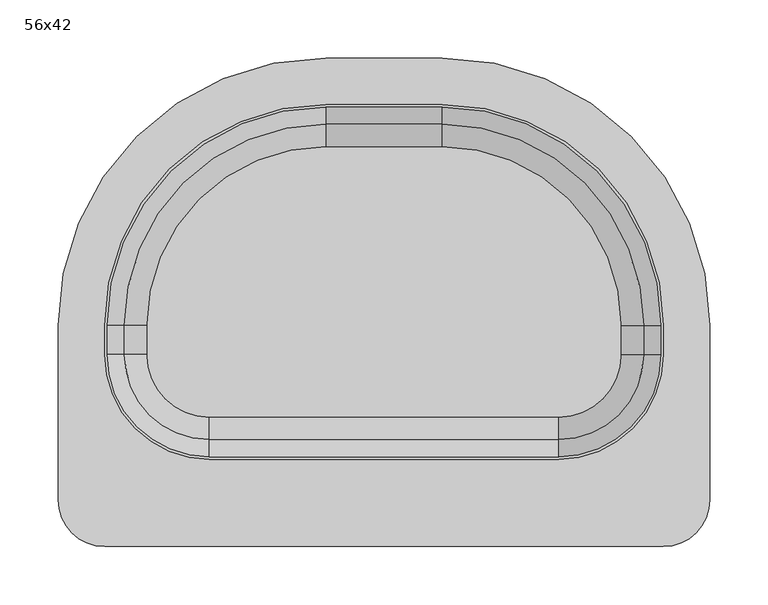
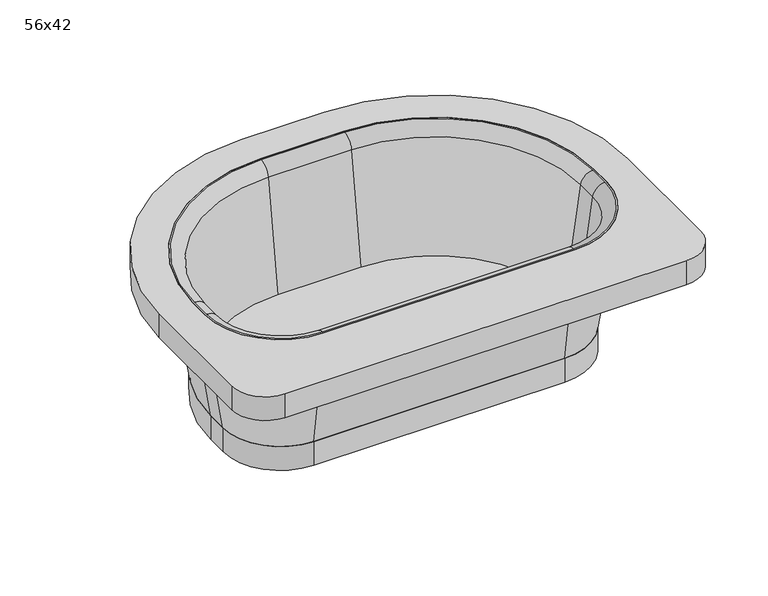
"""IFC4 building model written with IfcOpenShell, lengths in millimetres: flow terminal geometry, Sanitær Servant Løs : 56x42."""

from ifc_helpers import new_model, si_unit, point, frame, frame_2d, origin, place, context, project, spatial, polyline, circle_curve, ellipse_curve, trimmed, segment, composite_curve, outline, extrude, source, transform, mapped, element, save
from ifc_brep_helpers import plane_surface, cylinder_surface, revolved_surface, advanced_brep


def flow_terminal_56x42_dcce3b80(model_context):
    return source(origin(), model_context, "Body", "SolidModel", [
        extrude(outline(composite_curve([segment(trimmed(circle_curve(frame_2d((165.2894113, 370.0)), 168.9188748), [point((165.2894113, 538.9188748))], [point((334.208286, 370.0))], False, "CARTESIAN"), True, "CONTINUOUS"), segment(polyline([(334.208286, 370.0), (334.208286, 345.0)]), True, "CONTINUOUS"), segment(trimmed(circle_curve(frame_2d((265.2894113, 345.0)), 68.9188748), [point((334.208286, 345.0))], [point((265.2894113, 276.0811252))], False, "CARTESIAN"), True, "CONTINUOUS"), segment(polyline([(265.2894113, 276.0811252), (-34.7105887, 276.0811252)]), True, "CONTINUOUS"), segment(trimmed(circle_curve(frame_2d((-34.7105887, 345.0)), 68.9188748), [point((-34.7105887, 276.0811252))], [point((-103.6294635, 345.0))], False, "CARTESIAN"), True, "CONTINUOUS"), segment(polyline([(-103.6294635, 345.0), (-103.6294635, 370.0)]), True, "CONTINUOUS"), segment(trimmed(circle_curve(frame_2d((65.2894113, 370.0)), 168.9188748), [point((-103.6294635, 370.0))], [point((65.2894113, 538.9188748))], False, "CARTESIAN"), True, "CONTINUOUS"), segment(polyline([(65.2894113, 538.9188748), (165.2894113, 538.9188748)]), True, "CONTINUOUS")], self_intersect=False)), frame((0.0, 0.0, 720.0), z_axis=(0.0, 0.0, 1.0), x_axis=(1.0, 0.0, 0.0)), (0.0, 0.0, 1.0), 30.0),
        extrude(outline(composite_curve([segment(trimmed(circle_curve(frame_2d((65.2894113, 370.0)), 230.0), [point((-164.7105887, 370.0))], [point((65.2894113, 600.0))], False, "CARTESIAN"), True, "CONTINUOUS"), segment(polyline([(65.2894113, 600.0), (165.2894113, 600.0)]), True, "CONTINUOUS"), segment(trimmed(circle_curve(frame_2d((165.2894113, 370.0)), 230.0), [point((165.2894113, 600.0))], [point((395.2894113, 370.0))], False, "CARTESIAN"), True, "CONTINUOUS"), segment(polyline([(395.2894113, 370.0), (395.2894113, 220.0)]), True, "CONTINUOUS"), segment(trimmed(circle_curve(frame_2d((355.2894113, 220.0)), 40.0), [point((395.2894113, 220.0))], [point((355.2894113, 180.0))], False, "CARTESIAN"), True, "CONTINUOUS"), segment(polyline([(355.2894113, 180.0), (-124.7105887, 180.0)]), True, "CONTINUOUS"), segment(trimmed(circle_curve(frame_2d((-124.7105887, 220.0)), 40.0), [point((-124.7105887, 180.0))], [point((-164.7105887, 220.0))], False, "CARTESIAN"), True, "CONTINUOUS"), segment(polyline([(-164.7105887, 220.0), (-164.7105887, 370.0)]), True, "CONTINUOUS")], self_intersect=False), holes=[composite_curve([segment(trimmed(circle_curve(frame_2d((65.2894113, 370.0)), 190.0), [point((65.2894113, 560.0))], [point((-124.7105887, 370.0))], True, "CARTESIAN"), True, "CONTINUOUS"), segment(polyline([(-124.7105887, 370.0), (-124.7105887, 345.0)]), True, "CONTINUOUS"), segment(trimmed(circle_curve(frame_2d((-34.7105887, 345.0)), 90.0), [point((-124.7105887, 345.0))], [point((-34.7105887, 255.0))], True, "CARTESIAN"), True, "CONTINUOUS"), segment(polyline([(-34.7105887, 255.0), (265.2894113, 255.0)]), True, "CONTINUOUS"), segment(trimmed(circle_curve(frame_2d((265.2894113, 345.0)), 90.0), [point((265.2894113, 255.0))], [point((355.2894113, 345.0))], True, "CARTESIAN"), True, "CONTINUOUS"), segment(polyline([(355.2894113, 345.0), (355.2894113, 370.0)]), True, "CONTINUOUS"), segment(trimmed(circle_curve(frame_2d((165.2894113, 370.0)), 190.0), [point((355.2894113, 370.0))], [point((165.2894113, 560.0))], True, "CARTESIAN"), True, "CONTINUOUS"), segment(polyline([(165.2894113, 560.0), (65.2894113, 560.0)]), True, "CONTINUOUS")], self_intersect=False)]), frame((0.0, 0.0, 870.0), z_axis=(0.0, 0.0, 1.0), x_axis=(1.0, 0.0, 0.0)), (0.0, 0.0, 1.0), 30.0),
        advanced_brep(
        [(338.3272777, 370.0, 887.0875965), (165.2894113, 543.0378664, 887.0875965), (165.2894113, 523.7714612, 750.0), (319.0608725, 370.0, 750.0), (353.1812987, 370.0, 900.0), (165.2894113, 557.8918875, 900.0), (355.2894113, 370.0, 885.0), (165.2894113, 560.0, 885.0), (165.2894113, 560.0, 900.0), (355.2894113, 370.0, 900.0), (334.208286, 370.0, 750.0), (165.2894113, 538.9188748, 750.0), (319.0608725, 345.0, 750.0), (338.3272777, 345.0, 887.0875965), (353.1812987, 345.0, 900.0), (355.2894113, 345.0, 900.0), (355.2894113, 345.0, 885.0), (334.208286, 345.0, 750.0), (265.2894113, 271.9621336, 887.0875965), (265.2894113, 291.2285388, 750.0), (265.2894113, 257.1081125, 900.0), (265.2894113, 255.0, 885.0), (265.2894113, 255.0, 900.0), (265.2894113, 276.0811252, 750.0), (-34.7105887, 291.2285388, 750.0), (-34.7105887, 271.9621336, 887.0875965), (-34.7105887, 257.1081125, 900.0), (-34.7105887, 255.0, 900.0), (-34.7105887, 255.0, 885.0), (-34.7105887, 276.0811252, 750.0), (-107.7484552, 345.0, 887.0875965), (-88.48205, 345.0, 750.0), (-122.6024762, 345.0, 900.0), (-124.7105887, 345.0, 885.0), (-124.7105887, 345.0, 900.0), (-103.6294635, 345.0, 750.0), (-88.48205, 370.0, 750.0), (-107.7484552, 370.0, 887.0875965), (-122.6024762, 370.0, 900.0), (-124.7105887, 370.0, 900.0), (-124.7105887, 370.0, 885.0), (-103.6294635, 370.0, 750.0), (65.2894113, 543.0378664, 887.0875965), (65.2894113, 523.7714612, 750.0), (65.2894113, 557.8918875, 900.0), (65.2894113, 560.0, 885.0), (65.2894113, 560.0, 900.0), (65.2894113, 538.9188748, 750.0)],
        [
            (0, 1, circle_curve(frame((165.2894113, 370.0, 887.0875965), z_axis=(0.0, 0.0, 1.0), x_axis=(0.0, 1.0, 0.0)), 173.0378664)),
            (1, 2),
            (2, 3, circle_curve(frame((165.2894113, 370.0, 750.0), z_axis=(0.0, 0.0, -1.0), x_axis=(0.0, 1.0, 0.0)), 153.7714612)),
            (3, 0),
            (4, 5, circle_curve(frame((165.2894113, 370.0, 900.0), z_axis=(0.0, 0.0, 1.0), x_axis=(0.0, 1.0, 0.0)), 187.8918875)),
            (5, 1, circle_curve(frame((165.2894113, 557.8918875, 885.0), z_axis=(1.0, 0.0, 0.0), x_axis=(0.0, -1.0, 0.0)), 15.0)),
            (0, 4, circle_curve(frame((353.1812987, 370.0, 885.0), z_axis=(0.0, 1.0, 0.0), x_axis=(-1.0, 0.0, 0.0)), 15.0)),
            (6, 7, circle_curve(frame((165.2894113, 370.0, 885.0), z_axis=(0.0, 0.0, 1.0), x_axis=(0.0, 1.0, 0.0)), 190.0)),
            (7, 8),
            (8, 9, circle_curve(frame((165.2894113, 370.0, 900.0), z_axis=(0.0, 0.0, -1.0), x_axis=(0.0, 1.0, 0.0)), 190.0)),
            (9, 6),
            (10, 11, circle_curve(frame((165.2894113, 370.0, 750.0), z_axis=(0.0, 0.0, 1.0), x_axis=(0.0, 1.0, 0.0)), 168.9188748)),
            (11, 7),
            (6, 10),
            (3, 12),
            (12, 13),
            (13, 0),
            (13, 14, circle_curve(frame((353.1812987, 345.0, 885.0), z_axis=(0.0, 1.0, 0.0), x_axis=(-1.0, 0.0, 0.0)), 15.0)),
            (14, 4),
            (9, 15),
            (15, 16),
            (16, 6),
            (16, 17),
            (17, 10),
            (18, 13, circle_curve(frame((265.2894113, 345.0, 887.0875965), z_axis=(0.0, 0.0, 1.0), x_axis=(1.0, 0.0, 0.0)), 73.0378664)),
            (12, 19, circle_curve(frame((265.2894113, 345.0, 750.0), z_axis=(0.0, 0.0, -1.0), x_axis=(1.0, 0.0, 0.0)), 53.7714612)),
            (19, 18),
            (20, 14, circle_curve(frame((265.2894113, 345.0, 900.0), z_axis=(0.0, 0.0, 1.0), x_axis=(1.0, 0.0, 0.0)), 87.8918875)),
            (18, 20, circle_curve(frame((265.2894113, 257.1081125, 885.0), z_axis=(1.0, 0.0, 0.0), x_axis=(0.0, 1.0, 0.0)), 15.0)),
            (21, 16, circle_curve(frame((265.2894113, 345.0, 885.0), z_axis=(0.0, 0.0, 1.0), x_axis=(1.0, 0.0, 0.0)), 90.0)),
            (15, 22, circle_curve(frame((265.2894113, 345.0, 900.0), z_axis=(0.0, 0.0, -1.0), x_axis=(1.0, 0.0, 0.0)), 90.0)),
            (22, 21),
            (23, 17, circle_curve(frame((265.2894113, 345.0, 750.0), z_axis=(0.0, 0.0, 1.0), x_axis=(1.0, 0.0, 0.0)), 68.9188748)),
            (21, 23),
            (19, 24),
            (24, 25),
            (25, 18),
            (25, 26, circle_curve(frame((-34.7105887, 257.1081125, 885.0), z_axis=(1.0, 0.0, 0.0), x_axis=(0.0, 1.0, 0.0)), 15.0)),
            (26, 20),
            (22, 27),
            (27, 28),
            (28, 21),
            (28, 29),
            (29, 23),
            (30, 25, circle_curve(frame((-34.7105887, 345.0, 887.0875965), z_axis=(0.0, 0.0, 1.0), x_axis=(0.0, -1.0, 0.0)), 73.0378664)),
            (24, 31, circle_curve(frame((-34.7105887, 345.0, 750.0), z_axis=(0.0, 0.0, -1.0), x_axis=(0.0, -1.0, 0.0)), 53.7714612)),
            (31, 30),
            (32, 26, circle_curve(frame((-34.7105887, 345.0, 900.0), z_axis=(0.0, 0.0, 1.0), x_axis=(0.0, -1.0, 0.0)), 87.8918875)),
            (30, 32, circle_curve(frame((-122.6024762, 345.0, 885.0), z_axis=(0.0, -1.0, 0.0), x_axis=(1.0, 0.0, 0.0)), 15.0)),
            (33, 28, circle_curve(frame((-34.7105887, 345.0, 885.0), z_axis=(0.0, 0.0, 1.0), x_axis=(0.0, -1.0, 0.0)), 90.0)),
            (27, 34, circle_curve(frame((-34.7105887, 345.0, 900.0), z_axis=(0.0, 0.0, -1.0), x_axis=(0.0, -1.0, 0.0)), 90.0)),
            (34, 33),
            (35, 29, circle_curve(frame((-34.7105887, 345.0, 750.0), z_axis=(0.0, 0.0, 1.0), x_axis=(0.0, -1.0, 0.0)), 68.9188748)),
            (33, 35),
            (31, 36),
            (36, 37),
            (37, 30),
            (37, 38, circle_curve(frame((-122.6024762, 370.0, 885.0), z_axis=(0.0, -1.0, 0.0), x_axis=(1.0, 0.0, 0.0)), 15.0)),
            (38, 32),
            (34, 39),
            (39, 40),
            (40, 33),
            (40, 41),
            (41, 35),
            (42, 37, circle_curve(frame((65.2894113, 370.0, 887.0875965), z_axis=(0.0, 0.0, 1.0), x_axis=(-1.0, 0.0, 0.0)), 173.0378664)),
            (36, 43, circle_curve(frame((65.2894113, 370.0, 750.0), z_axis=(0.0, 0.0, -1.0), x_axis=(-1.0, 0.0, 0.0)), 153.7714612)),
            (43, 42),
            (44, 38, circle_curve(frame((65.2894113, 370.0, 900.0), z_axis=(0.0, 0.0, 1.0), x_axis=(-1.0, 0.0, 0.0)), 187.8918875)),
            (42, 44, circle_curve(frame((65.2894113, 557.8918875, 885.0), z_axis=(-1.0, 0.0, 0.0), x_axis=(0.0, -1.0, 0.0)), 15.0)),
            (45, 40, circle_curve(frame((65.2894113, 370.0, 885.0), z_axis=(0.0, 0.0, 1.0), x_axis=(-1.0, 0.0, 0.0)), 190.0)),
            (39, 46, circle_curve(frame((65.2894113, 370.0, 900.0), z_axis=(0.0, 0.0, -1.0), x_axis=(-1.0, 0.0, 0.0)), 190.0)),
            (46, 45),
            (47, 41, circle_curve(frame((65.2894113, 370.0, 750.0), z_axis=(0.0, 0.0, 1.0), x_axis=(-1.0, 0.0, 0.0)), 168.9188748)),
            (45, 47),
            (47, 11),
            (2, 43),
            (1, 42),
            (5, 44),
            (8, 46),
            (7, 45),
        ],
        [
            revolved_surface(polyline([(165.2894113, 523.7714612, 750.0), (165.2894113, 543.0378664, 887.0875965)]), (165.2894113, 370.0, 0.0), (0.0, 0.0, -1.0)),
            revolved_surface(trimmed(ellipse_curve(frame((165.2894113, 557.8918875, 885.0), z_axis=(-1.0, 0.0, 0.0), x_axis=(0.0, -1.0, 0.0)), 15.0, 15.0), [point((165.2894113, 543.0378664, 887.0875965))], [point((165.2894113, 557.8918875, 900.0))], True, "CARTESIAN"), (165.2894113, 370.0, 0.0), (0.0, 0.0, -1.0)),
            cylinder_surface(frame((165.2894113, 370.0, 0.0), z_axis=(0.0, 0.0, -1.0), x_axis=(0.0, 1.0, 0.0)), 190.0),
            revolved_surface(polyline([(165.2894113, 560.0, 885.0), (165.2894113, 538.9188748, 750.0)]), (165.2894113, 370.0, 0.0), (0.0, 0.0, -1.0)),
            plane_surface(frame((319.0608725, 370.0, 750.0), z_axis=(-0.9902680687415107, 0.0, 0.13917310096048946), x_axis=(0.0, -1.0, 0.0))),
            cylinder_surface(frame((353.1812987, 370.0, 885.0), z_axis=(0.0, 1.0, 0.0), x_axis=(-1.0, 0.0, 0.0)), 15.0),
            plane_surface(frame((355.2894113, 370.0, 900.0), z_axis=(1.0, 0.0, 0.0), x_axis=(0.0, -1.0, 0.0))),
            plane_surface(frame((355.2894113, 370.0, 885.0), z_axis=(0.9880261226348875, 0.0, -0.15428668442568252), x_axis=(0.0, -1.0, 0.0))),
            revolved_surface(polyline([(319.0608725, 345.0, 750.0), (338.3272777, 345.0, 887.0875965)]), (265.2894113, 345.0, 0.0), (0.0, 0.0, -1.0)),
            revolved_surface(trimmed(ellipse_curve(frame((353.1812987, 345.0, 885.0), z_axis=(0.0, 1.0, 0.0), x_axis=(-1.0, 0.0, 0.0)), 15.0, 15.0), [point((338.3272777, 345.0, 887.0875965))], [point((353.1812987, 345.0, 900.0))], True, "CARTESIAN"), (265.2894113, 345.0, 0.0), (0.0, 0.0, -1.0)),
            cylinder_surface(frame((265.2894113, 345.0, 0.0), z_axis=(0.0, 0.0, -1.0), x_axis=(1.0, 0.0, 0.0)), 90.0),
            revolved_surface(polyline([(355.2894113, 345.0, 885.0), (334.208286, 345.0, 750.0)]), (265.2894113, 345.0, 0.0), (0.0, 0.0, -1.0)),
            plane_surface(frame((265.2894113, 291.2285388, 750.0), z_axis=(0.0, 0.9902680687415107, 0.13917310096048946), x_axis=(-1.0, 0.0, 0.0))),
            cylinder_surface(frame((265.2894113, 257.1081125, 885.0), z_axis=(1.0, 0.0, 0.0), x_axis=(0.0, 1.0, 0.0)), 15.0),
            plane_surface(frame((265.2894113, 255.0, 900.0), z_axis=(0.0, -1.0, 0.0), x_axis=(-1.0, 0.0, 0.0))),
            plane_surface(frame((265.2894113, 255.0, 885.0), z_axis=(0.0, -0.9880261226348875, -0.15428668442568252), x_axis=(-1.0, 0.0, 0.0))),
            revolved_surface(polyline([(-34.7105887, 291.2285388, 750.0), (-34.7105887, 271.9621336, 887.0875965)]), (-34.7105887, 345.0, 0.0), (0.0, 0.0, -1.0)),
            revolved_surface(trimmed(ellipse_curve(frame((-34.7105887, 257.1081125, 885.0), z_axis=(1.0, 0.0, 0.0), x_axis=(0.0, 1.0, 0.0)), 15.0, 15.0), [point((-34.7105887, 271.9621336, 887.0875965))], [point((-34.7105887, 257.1081125, 900.0))], True, "CARTESIAN"), (-34.7105887, 345.0, 0.0), (0.0, 0.0, -1.0)),
            cylinder_surface(frame((-34.7105887, 345.0, 0.0), z_axis=(0.0, 0.0, -1.0), x_axis=(0.0, -1.0, 0.0)), 90.0),
            revolved_surface(polyline([(-34.7105887, 255.0, 885.0), (-34.7105887, 276.0811252, 750.0)]), (-34.7105887, 345.0, 0.0), (0.0, 0.0, -1.0)),
            plane_surface(frame((-88.48205, 345.0, 750.0), z_axis=(0.9902680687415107, 0.0, 0.13917310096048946), x_axis=(0.0, 1.0, 0.0))),
            cylinder_surface(frame((-122.6024762, 345.0, 885.0), z_axis=(0.0, -1.0, 0.0), x_axis=(1.0, 0.0, 0.0)), 15.0),
            plane_surface(frame((-124.7105887, 345.0, 900.0), z_axis=(-1.0, 0.0, 0.0), x_axis=(0.0, 1.0, 0.0))),
            plane_surface(frame((-124.7105887, 345.0, 885.0), z_axis=(-0.9880261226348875, 0.0, -0.15428668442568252), x_axis=(0.0, 1.0, 0.0))),
            revolved_surface(polyline([(-88.48205, 370.0, 750.0), (-107.7484552, 370.0, 887.0875965)]), (65.2894113, 370.0, 0.0), (0.0, 0.0, -1.0)),
            revolved_surface(trimmed(ellipse_curve(frame((-122.6024762, 370.0, 885.0), z_axis=(0.0, -1.0, 0.0), x_axis=(1.0, 0.0, 0.0)), 15.0, 15.0), [point((-107.7484552, 370.0, 887.0875965))], [point((-122.6024762, 370.0, 900.0))], True, "CARTESIAN"), (65.2894113, 370.0, 0.0), (0.0, 0.0, -1.0)),
            cylinder_surface(frame((65.2894113, 370.0, 0.0), z_axis=(0.0, 0.0, -1.0), x_axis=(-1.0, 0.0, 0.0)), 190.0),
            revolved_surface(polyline([(-124.7105887, 370.0, 885.0), (-103.6294635, 370.0, 750.0)]), (65.2894113, 370.0, 0.0), (0.0, 0.0, -1.0)),
            plane_surface(frame((65.2894113, 538.9188748, 750.0), z_axis=(0.0, 0.0, -1.0), x_axis=(1.0, 0.0, 0.0))),
            plane_surface(frame((65.2894113, 523.7714612, 750.0), z_axis=(0.0, -0.9902680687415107, 0.13917310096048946), x_axis=(1.0, 0.0, 0.0))),
            cylinder_surface(frame((65.2894113, 557.8918875, 885.0), z_axis=(-1.0, 0.0, 0.0), x_axis=(0.0, -1.0, 0.0)), 15.0),
            plane_surface(frame((65.2894113, 557.8918875, 900.0), z_axis=(0.0, 0.0, 1.0), x_axis=(1.0, 0.0, 0.0))),
            plane_surface(frame((65.2894113, 560.0, 900.0), z_axis=(0.0, 1.0, 0.0), x_axis=(1.0, 0.0, 0.0))),
            plane_surface(frame((65.2894113, 560.0, 885.0), z_axis=(0.0, 0.9880261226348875, -0.15428668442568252), x_axis=(1.0, 0.0, 0.0))),
        ],
        [
            (0, [[1, 2, 3, 4]]),
            (1, [[5, 6, -1, 7]]),
            (2, [[8, 9, 10, 11]]),
            (3, [[12, 13, -8, 14]]),
            (4, [[-4, 15, 16, 17]]),
            (5, [[-7, -17, 18, 19]]),
            (6, [[-11, 20, 21, 22]]),
            (7, [[-14, -22, 23, 24]]),
            (8, [[25, -16, 26, 27]]),
            (9, [[28, -18, -25, 29]]),
            (10, [[30, -21, 31, 32]]),
            (11, [[33, -23, -30, 34]]),
            (12, [[-27, 35, 36, 37]]),
            (13, [[-29, -37, 38, 39]]),
            (14, [[-32, 40, 41, 42]]),
            (15, [[-34, -42, 43, 44]]),
            (16, [[45, -36, 46, 47]]),
            (17, [[48, -38, -45, 49]]),
            (18, [[50, -41, 51, 52]]),
            (19, [[53, -43, -50, 54]]),
            (20, [[-47, 55, 56, 57]]),
            (21, [[-49, -57, 58, 59]]),
            (22, [[-52, 60, 61, 62]]),
            (23, [[-54, -62, 63, 64]]),
            (24, [[65, -56, 66, 67]]),
            (25, [[68, -58, -65, 69]]),
            (26, [[70, -61, 71, 72]]),
            (27, [[73, -63, -70, 74]]),
            (28, [[-64, -73, 75, -12, -24, -33, -44, -53], [76, -66, -55, -46, -35, -26, -15, -3]]),
            (29, [[-67, -76, -2, 77]]),
            (30, [[-69, -77, -6, 78]]),
            (31, [[79, -71, -60, -51, -40, -31, -20, -10], [-59, -68, -78, -5, -19, -28, -39, -48]]),
            (32, [[-72, -79, -9, 80]]),
            (33, [[-74, -80, -13, -75]]),
        ],
    ),
    ])


if __name__ == "__main__":
    model = new_model("IFC4")
    model_context = context("Model", 3, world=origin())
    ifc_project = project(units=[si_unit("LENGTHUNIT", "METRE", prefix="MILLI")], contexts=[model_context])
    site = spatial("IfcSite", under=ifc_project)
    building = spatial("IfcBuilding", under=site)
    placement = place(None, origin())
    flow_terminal_56x42_shape = flow_terminal_56x42_dcce3b80(model_context)
    element("IfcFlowTerminal", 1, ObjectType="Sanitær Servant Løs : 56x42", at=placement, inside=building, context=model_context, shape_type="MappedRepresentation", body=[
        mapped(flow_terminal_56x42_shape, transform((0.0, 0.0, 0.0), x_axis=(1.0, 0.0, 0.0), y_axis=(0.0, 1.0, 0.0), z_axis=(0.0, 0.0, 1.0))),
    ])
    save(model, "model.ifc")
